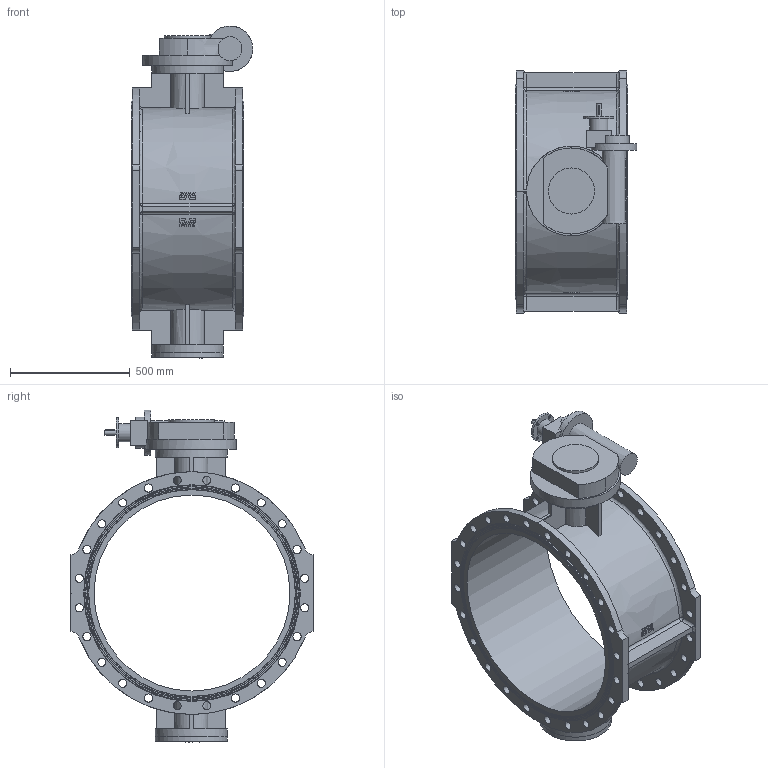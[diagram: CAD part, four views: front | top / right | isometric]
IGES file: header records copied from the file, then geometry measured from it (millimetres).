
Start section: SolidWorks IGES file using analytic representation for surfaces
Global section: file name: \\avksan2\techshare\PBM outline export from Enovia\O_756_102_DN800_0XX_AA0_igs.igs; native system: SolidWorks 2012; preprocessor: SolidWorks 2012; author: pbm; date: 160309.130700; units: millimetre
Bounding box: 507.8 x 1015 x 1387.5 mm (x, y, z)
Surface area: 4742200.1 mm2 (no closed solid volume)
Topology: 0 solids, 0 shells, 616 faces, 3432 edges, 3284 vertices
Faces by surface type: bspline 415, revolution 201
